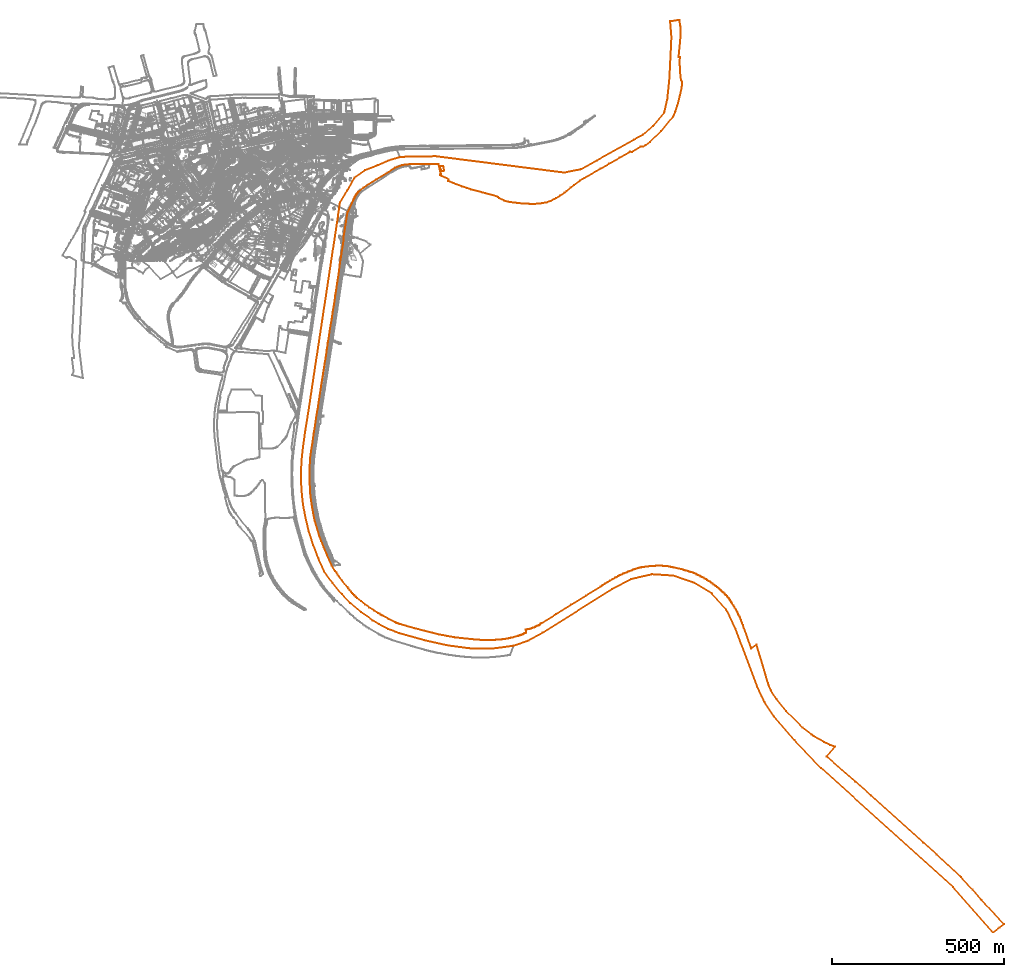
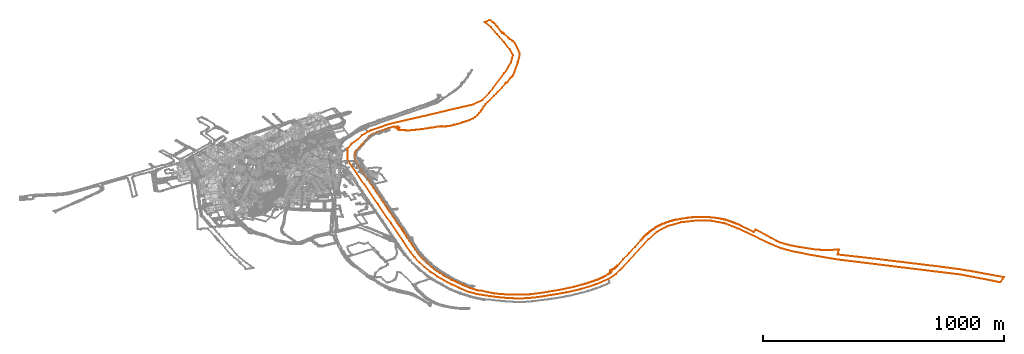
# Not in any storey, part 210 of 494: 1 proxy.
"""IFC2X3 model written with IfcOpenShell, lengths in metres."""

from ifc_helpers import new_model, entity, si_unit, frame, origin_with_axes, place, context, subcontext, project, element, save


model = new_model("IFC2X3")

# Units and contexts
model_context = context("Model", 3, precision=1e-05, world=origin_with_axes())
body_context = subcontext(model_context, "Body", "Model", "MODEL_VIEW")
ifc_project = project(units=[si_unit("AREAUNIT", "SQUARE_METRE"), si_unit("LENGTHUNIT", "METRE")], contexts=[model_context])

# Proxy
proxy_placement = place(None, frame((542.0177320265, -621.6102839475, 501.9060388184), z_axis=(0.0, 0.0, 1.0), x_axis=(1.0, 0.0, 0.0)))
element("IfcBuildingElementProxy", 1, at=proxy_placement, Name="Cadastre 115", ObjectType="NOTDEFINED", context=body_context, shape_type="GeometricCurveSet", body=[
    entity("IfcGeometricCurveSet", [entity("IfcPolyline", [entity("IfcCartesianPoint", [0.0, 0.0, 0.0]), entity("IfcCartesianPoint", [1.7000000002, 41.9029999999, 0.0426776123]), entity("IfcCartesianPoint", [6.4010000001, 83.605, 0.0697938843]), entity("IfcCartesianPoint", [12.202, 125.308, 0.0911263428]), entity("IfcCartesianPoint", [19.003, 166.7109999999, 0.0603386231]), entity("IfcCartesianPoint", [39.736, 303.4099999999, 0.0059807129]), entity("IfcCartesianPoint", [62.23, 451.719, -1.0802236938]), entity("IfcCartesianPoint", [84.7240000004, 600.0389999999, -1.1159338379]), entity("IfcCartesianPoint", [107.2150000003, 748.3470000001, -1.0468880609]), entity("IfcCartesianPoint", [113.0140000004, 790.55, -1.1881933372]), entity("IfcCartesianPoint", [134.7110000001, 826.155, -1.161278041]), entity("IfcCartesianPoint", [155.409, 863.659, -0.9169178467]), entity("IfcCartesianPoint", [186.8100000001, 884.7590000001, -0.9188815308]), entity("IfcCartesianPoint", [222.412, 898.9579999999, -1.1687156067]), entity("IfcCartesianPoint", [254.0150000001, 912.959, 0.6503832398]), entity("IfcCartesianPoint", [287.7180000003, 922.76, 1.7440050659]), entity("IfcCartesianPoint", [303.3250000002, 923.7790000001, 2.063270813]), entity("IfcCartesianPoint", [391.7410000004, 925.203, 2.1440401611]), entity("IfcCartesianPoint", [764.2220000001, 877.7069999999, -1.0670202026]), entity("IfcCartesianPoint", [813.7790000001, 887.4709999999, -0.9910232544]), entity("IfcCartesianPoint", [860.0590000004, 913.3689999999, 0.6748161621]), entity("IfcCartesianPoint", [967.5260000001, 973.5060000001, 27.7311880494]), entity("IfcCartesianPoint", [994.6440000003, 988.254, 37.480184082]), entity("IfcCartesianPoint", [1023.1500000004, 1013.648, 39.0747852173]), entity("IfcCartesianPoint", [1055.9030000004, 1052.341, 40.5297521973]), entity("IfcCartesianPoint", [1064.9140000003, 1092.6710000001, 40.5297521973]), entity("IfcCartesianPoint", [1070.929, 1152.355, 40.5297521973]), entity("IfcCartesianPoint", [1074.145, 1215.9210000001, 40.5297521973]), entity("IfcCartesianPoint", [1076.898, 1272.449, 40.5297521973]), entity("IfcCartesianPoint", [1073.0, 1317.497, 40.5297521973]), entity("IfcCartesianPoint", [1099.7940000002, 1321.79, 40.5297521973]), entity("IfcCartesianPoint", [1102.6010000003, 1301.723, 40.5297521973]), entity("IfcCartesianPoint", [1103.4240000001, 1290.551, 40.5297521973]), entity("IfcCartesianPoint", [1103.4770000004, 1280.514, 40.5297521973]), entity("IfcCartesianPoint", [1102.2930000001, 1262.0279999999, 40.5297521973]), entity("IfcCartesianPoint", [1098.5520000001, 1225.551, 40.5297521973]), entity("IfcCartesianPoint", [1097.2440000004, 1213.4139999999, 40.5297521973]), entity("IfcCartesianPoint", [1101.6160000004, 1212.946, 40.5297521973]), entity("IfcCartesianPoint", [1101.426, 1211.067, 40.5297521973]), entity("IfcCartesianPoint", [1100.4050000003, 1202.138, 40.5297521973]), entity("IfcCartesianPoint", [1101.9770000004, 1174.115, 40.5297521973]), entity("IfcCartesianPoint", [1102.9670000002, 1160.709, 40.5297521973]), entity("IfcCartesianPoint", [1104.8590000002, 1146.179, 40.5297521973]), entity("IfcCartesianPoint", [1107.0830000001, 1142.1140000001, 40.5297521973]), entity("IfcCartesianPoint", [1106.9300000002, 1126.085, 40.5297521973]), entity("IfcCartesianPoint", [1098.75, 1091.1129999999, 40.5297521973]), entity("IfcCartesianPoint", [1093.1120000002, 1070.4709999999, 40.5297521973]), entity("IfcCartesianPoint", [1087.611, 1053.0759999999, 40.5297521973]), entity("IfcCartesianPoint", [1081.9100000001, 1041.25, 40.6099217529]), entity("IfcCartesianPoint", [1046.9140000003, 998.0290000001, 37.8777592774]), entity("IfcCartesianPoint", [1013.952, 966.9480000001, 23.0549628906]), entity("IfcCartesianPoint", [1001.0490000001, 957.156, 15.1959356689]), entity("IfcCartesianPoint", [993.9810000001, 953.3230000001, 12.8877911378]), entity("IfcCartesianPoint", [987.1190000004, 953.0379999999, 12.5190143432]), entity("IfcCartesianPoint", [961.6290000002, 937.5900000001, 3.665798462]), entity("IfcCartesianPoint", [957.2340000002, 938.6810000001, 4.0288244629]), entity("IfcCartesianPoint", [954.4210000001, 937.0600000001, 3.4625143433]), entity("IfcCartesianPoint", [926.5050000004, 921.003, 1.0751563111]), entity("IfcCartesianPoint", [896.0070000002, 903.4579999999, 0.5256862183]), entity("IfcCartesianPoint", [870.9710000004, 889.0560000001, -1.0434083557]), entity("IfcCartesianPoint", [824.1980000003, 862.5249999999, -0.8967766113]), entity("IfcCartesianPoint", [810.4880000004, 854.436, -0.9945100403]), entity("IfcCartesianPoint", [793.4700000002, 841.7649999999, -1.1405064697]), entity("IfcCartesianPoint", [783.8320000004, 833.8389999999, -1.1022977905]), entity("IfcCartesianPoint", [772.5140000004, 824.301, -1.2342279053]), entity("IfcCartesianPoint", [765.8640000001, 819.112, -1.0903235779]), entity("IfcCartesianPoint", [753.5080000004, 810.9679999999, -1.0176105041]), entity("IfcCartesianPoint", [741.523, 803.5, -1.074896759]), entity("IfcCartesianPoint", [725.1920000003, 795.5049999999, -1.335704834]), entity("IfcCartesianPoint", [713.5960000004, 791.3500000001, -1.372318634]), entity("IfcCartesianPoint", [694.4680000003, 787.821, -0.7182080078]), entity("IfcCartesianPoint", [679.696, 786.7409999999, -0.4697137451]), entity("IfcCartesianPoint", [664.0280000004, 786.9480000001, -0.5030366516]), entity("IfcCartesianPoint", [644.5960000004, 787.828, -0.7203023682]), entity("IfcCartesianPoint", [623.4060000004, 789.9709999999, -1.3066104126]), entity("IfcCartesianPoint", [602.5380000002, 792.8959999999, -1.355947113]), entity("IfcCartesianPoint", [590.9960000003, 796.0989999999, -1.3330582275]), entity("IfcCartesianPoint", [575.4240000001, 803.2960000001, -1.0753761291]), entity("IfcCartesianPoint", [572.605, 805.9920000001, -1.0486753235]), entity("IfcCartesianPoint", [572.7720000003, 807.3159999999, -0.9968969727]), entity("IfcCartesianPoint", [557.0450000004, 812.294, -1.0242065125]), entity("IfcCartesianPoint", [527.3560000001, 820.0279999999, -1.1305361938]), entity("IfcCartesianPoint", [494.3810000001, 828.817, -1.1863125]), entity("IfcCartesianPoint", [468.1800000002, 837.7220000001, -1.1066472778]), entity("IfcCartesianPoint", [442.8500000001, 847.226, -1.1580195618]), entity("IfcCartesianPoint", [427.2440000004, 853.3149999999, -1.0875688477]), entity("IfcCartesianPoint", [429.4910000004, 858.176, -0.8657447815]), entity("IfcCartesianPoint", [409.1660000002, 867.754, -0.985758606]), entity("IfcCartesianPoint", [404.9010000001, 870.3159999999, -0.9955252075]), entity("IfcCartesianPoint", [404.074, 871.385, -0.9530349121]), entity("IfcCartesianPoint", [407.0240000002, 873.9509999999, -1.0865319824]), entity("IfcCartesianPoint", [403.9880000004, 883.5190000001, -0.936262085]), entity("IfcCartesianPoint", [401.6940000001, 895.2079999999, -1.1791297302]), entity("IfcCartesianPoint", [404.2280000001, 895.3259999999, -1.1788020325]), entity("IfcCartesianPoint", [406.6520000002, 885.0349999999, -0.918755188]), entity("IfcCartesianPoint", [407.9930000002, 881.54, -0.9807799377]), entity("IfcCartesianPoint", [416.6610000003, 883.575, -0.9350008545]), entity("IfcCartesianPoint", [414.29, 893.7649999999, -1.1818615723]), entity("IfcCartesianPoint", [412.5810000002, 896.014, -1.1768913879]), entity("IfcCartesianPoint", [412.4070000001, 897.3219999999, -1.1732589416]), entity("IfcCartesianPoint", [404.057, 897.1189999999, -1.1738226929]), entity("IfcCartesianPoint", [404.0690000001, 896.2849999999, -1.1761387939]), entity("IfcCartesianPoint", [401.5360000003, 896.199, -1.1763776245]), entity("IfcCartesianPoint", [399.642, 902.5589999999, 0.2813117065]), entity("IfcCartesianPoint", [373.3500000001, 902.9820000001, 0.4195534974]), entity("IfcCartesianPoint", [361.0750000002, 902.311, 0.200262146]), entity("IfcCartesianPoint", [320.3250000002, 902.71, 0.3306604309]), entity("IfcCartesianPoint", [293.2180000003, 899.5589999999, -1.1680561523]), entity("IfcCartesianPoint", [273.9180000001, 891.8559999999, -1.1357965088]), entity("IfcCartesianPoint", [218.4140000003, 857.6540000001, -0.8713044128]), entity("IfcCartesianPoint", [181.412, 834.355, -1.0902175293]), entity("IfcCartesianPoint", [168.0090000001, 822.352, -1.1854189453]), entity("IfcCartesianPoint", [166.4360000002, 820.537, -1.148776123]), entity("IfcCartesianPoint", [164.9080000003, 818.6839999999, -1.0687328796]), entity("IfcCartesianPoint", [163.4280000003, 816.7930000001, -1.0072961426]), entity("IfcCartesianPoint", [161.9940000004, 814.8659999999, -1.0223649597]), entity("IfcCartesianPoint", [160.6100000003, 812.9029999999, -1.0272359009]), entity("IfcCartesianPoint", [159.1740000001, 810.75, -1.0165260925]), entity("IfcCartesianPoint", [157.7960000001, 808.5600000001, -0.9889538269]), entity("IfcCartesianPoint", [156.4780000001, 806.3319999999, -1.0375517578]), entity("IfcCartesianPoint", [155.2210000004, 804.071, -1.0735549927]), entity("IfcCartesianPoint", [154.0250000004, 801.7760000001, -1.1110096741]), entity("IfcCartesianPoint", [152.8910000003, 799.449, -1.2036887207]), entity("IfcCartesianPoint", [151.821, 797.0929999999, -1.3226821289]), entity("IfcCartesianPoint", [137.9820000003, 767.885, 2.3113259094]), entity("IfcCartesianPoint", [135.2990000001, 762.5109999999, 2.2620417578]), entity("IfcCartesianPoint", [123.801, 690.423, 0.5425215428]), entity("IfcCartesianPoint", [124.4980000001, 684.551, 0.7243541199]), entity("IfcCartesianPoint", [119.2950000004, 652.9909999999, 0.1488033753]), entity("IfcCartesianPoint", [116.054, 631.5800000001, 0.1639845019]), entity("IfcCartesianPoint", [112.8530000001, 609.909, -0.5517054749]), entity("IfcCartesianPoint", [109.273, 582.077, -1.0554445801]), entity("IfcCartesianPoint", [105.8520000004, 561.4750000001, -1.1082409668]), entity("IfcCartesianPoint", [102.8320000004, 540.8740000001, -1.0558017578]), entity("IfcCartesianPoint", [99.6910000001, 520.0829999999, -1.1056615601]), entity("IfcCartesianPoint", [95.5900000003, 492.311, -1.1555075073]), entity("IfcCartesianPoint", [92.3100000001, 472.02, -1.1044381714]), entity("IfcCartesianPoint", [89.2890000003, 451.308, -1.1264724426]), entity("IfcCartesianPoint", [84.3690000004, 423.8459999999, -1.1125753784]), entity("IfcCartesianPoint", [81.378, 402.9550000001, -1.0842247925]), entity("IfcCartesianPoint", [77.9580000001, 382.4939999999, -1.0687600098]), entity("IfcCartesianPoint", [75.057, 361.622, -1.0425980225]), entity("IfcCartesianPoint", [71.8170000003, 340.4709999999, -1.0613349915]), entity("IfcCartesianPoint", [64.4250000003, 295.318, -1.1045910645]), entity("IfcCartesianPoint", [59.9750000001, 266.8859999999, -0.0401028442]), entity("IfcCartesianPoint", [56.912, 247.2560000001, 0.4312880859]), entity("IfcCartesianPoint", [55.054, 235.344, 0.3271748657]), entity("IfcCartesianPoint", [52.7640000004, 219.5330000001, 0.2402608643]), entity("IfcCartesianPoint", [49.003, 195.192, 0.2519875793]), entity("IfcCartesianPoint", [45.452, 174.72, 0.2037938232]), entity("IfcCartesianPoint", [42.3620000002, 154.0589999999, 0.1048466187]), entity("IfcCartesianPoint", [39.3110000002, 133.227, 0.004605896]), entity("IfcCartesianPoint", [37.111, 119.477, 0.0074746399]), entity("IfcCartesianPoint", [33.0600000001, 91.855, 0.1121435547]), entity("IfcCartesianPoint", [27.5790000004, 57.2830000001, 0.0631157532]), entity("IfcCartesianPoint", [26.2990000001, 40.7009999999, 0.0730621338]), entity("IfcCartesianPoint", [25.1980000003, 23.6499999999, 0.0640465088]), entity("IfcCartesianPoint", [25.0680000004, 7.2889999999, 0.063135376]), entity("IfcCartesianPoint", [25.1270000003, -20.023, 0.06345047]), entity("IfcCartesianPoint", [26.2370000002, -42.1229999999, 0.0737811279]), entity("IfcCartesianPoint", [27.128, -55.2320000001, 0.0634484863]), entity("IfcCartesianPoint", [29.52, -76.0209999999, 0.0621362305]), entity("IfcCartesianPoint", [31.8020000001, -90.8300000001, 0.0908261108]), entity("IfcCartesianPoint", [35.2540000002, -110.899, 0.0289588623]), entity("IfcCartesianPoint", [39.9760000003, -133.6769999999, 0.0067570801]), entity("IfcCartesianPoint", [53.1710000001, -176.916, 0.2370680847]), entity("IfcCartesianPoint", [59.0420000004, -192.6359999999, 0.3572734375]), entity("IfcCartesianPoint", [66.2540000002, -210.325, -1.1103059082]), entity("IfcCartesianPoint", [75.2770000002, -232.4650000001, -1.0429473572]), entity("IfcCartesianPoint", [89.54, -264.321, -1.1246417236]), entity("IfcCartesianPoint", [99.1670000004, -279.6969999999, -1.1328786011]), entity("IfcCartesianPoint", [103.0280000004, -285.2280000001, -1.0622677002]), entity("IfcCartesianPoint", [106.9420000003, -290.7209999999, -1.1197266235]), entity("IfcCartesianPoint", [110.909, -296.176, -0.9881795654]), entity("IfcCartesianPoint", [119.7410000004, -307.6510000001, 0.8797353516]), entity("IfcCartesianPoint", [134.9640000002, -327.382, 1.0506490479]), entity("IfcCartesianPoint", [138.4310000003, -331.7409999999, 1.7574806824]), entity("IfcCartesianPoint", [141.9570000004, -336.054, 1.901065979]), entity("IfcCartesianPoint", [145.2770000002, -340.007, 1.9617590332]), entity("IfcCartesianPoint", [148.6320000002, -343.932, 1.9617590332]), entity("IfcCartesianPoint", [152.02, -347.827, 1.9617590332]), entity("IfcCartesianPoint", [154.0150000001, -350.101, 1.9617590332]), entity("IfcCartesianPoint", [156.0670000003, -352.324, 1.9617590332]), entity("IfcCartesianPoint", [158.1740000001, -354.4939999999, 1.9617590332]), entity("IfcCartesianPoint", [160.3350000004, -356.6100000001, 1.9617590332]), entity("IfcCartesianPoint", [162.5490000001, -358.6710000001, 1.9617590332]), entity("IfcCartesianPoint", [174.4020000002, -367.949, 1.9617590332]), entity("IfcCartesianPoint", [186.3230000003, -377.1529999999, 1.9617590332]), entity("IfcCartesianPoint", [198.5860000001, -385.9909999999, 1.9617590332]), entity("IfcCartesianPoint", [211.8140000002, -394.6059999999, 1.9617590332]), entity("IfcCartesianPoint", [224.537, -402.6070000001, 1.9617590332]), entity("IfcCartesianPoint", [227.7660000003, -404.5160000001, 1.9617590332]), entity("IfcCartesianPoint", [231.0190000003, -406.3829999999, 1.9617590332]), entity("IfcCartesianPoint", [234.2960000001, -408.21, 1.9617590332]), entity("IfcCartesianPoint", [237.5950000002, -409.9950000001, 1.9617590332]), entity("IfcCartesianPoint", [255.23, -419.4369999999, 1.9617590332]), entity("IfcCartesianPoint", [272.963, -428.703, 1.9617590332]), entity("IfcCartesianPoint", [275.7050000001, -429.946, 1.9617590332]), entity("IfcCartesianPoint", [278.4780000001, -431.1189999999, 1.9617590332]), entity("IfcCartesianPoint", [281.2790000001, -432.2220000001, 1.9617590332]), entity("IfcCartesianPoint", [284.1070000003, -433.254, 1.9617590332]), entity("IfcCartesianPoint", [286.9600000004, -434.2150000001, 1.9617590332]), entity("IfcCartesianPoint", [289.8360000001, -435.1040000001, 1.9617590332]), entity("IfcCartesianPoint", [304.571, -439.4010000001, 1.9617590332]), entity("IfcCartesianPoint", [332.9720000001, -447.452, 1.9617590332]), entity("IfcCartesianPoint", [357.7310000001, -454.02, 1.9617590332]), entity("IfcCartesianPoint", [381.5870000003, -459.8670000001, 1.9617590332]), entity("IfcCartesianPoint", [401.2070000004, -464.5970000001, 1.9617590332]), entity("IfcCartesianPoint", [420.8260000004, -468.5060000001, 1.9617590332]), entity("IfcCartesianPoint", [447.8340000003, -473.0860000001, 1.9617590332]), entity("IfcCartesianPoint", [467.6890000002, -475.4950000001, 1.9617590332]), entity("IfcCartesianPoint", [502.5050000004, -479.0150000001, 1.9617590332]), entity("IfcCartesianPoint", [507.3450000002, -479.4680000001, 1.9617590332]), entity("IfcCartesianPoint", [512.1920000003, -479.845, 1.9617590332]), entity("IfcCartesianPoint", [517.0450000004, -480.1459999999, 1.9617590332]), entity("IfcCartesianPoint", [521.9010000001, -480.371, 1.9617590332]), entity("IfcCartesianPoint", [526.7600000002, -480.52, 1.9617590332]), entity("IfcCartesianPoint", [531.6210000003, -480.5919999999, 1.9617590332]), entity("IfcCartesianPoint", [536.483, -480.588, 1.9617590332]), entity("IfcCartesianPoint", [541.6570000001, -480.6680000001, 1.9617590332]), entity("IfcCartesianPoint", [546.8310000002, -480.6880000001, 1.9617590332]), entity("IfcCartesianPoint", [552.0050000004, -480.648, 1.9617590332]), entity("IfcCartesianPoint", [557.1780000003, -480.5490000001, 1.9617590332]), entity("IfcCartesianPoint", [562.3500000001, -480.3900000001, 1.9617590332]), entity("IfcCartesianPoint", [567.52, -480.172, 1.9617590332]), entity("IfcCartesianPoint", [571.2120000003, -480.023, 1.9617590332]), entity("IfcCartesianPoint", [574.9010000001, -479.8049999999, 1.9617590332]), entity("IfcCartesianPoint", [578.5860000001, -479.5190000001, 1.9617590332]), entity("IfcCartesianPoint", [582.2640000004, -479.166, 1.9617590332]), entity("IfcCartesianPoint", [585.9350000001, -478.7439999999, 1.9617590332]), entity("IfcCartesianPoint", [589.5980000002, -478.2550000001, 1.9617590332]), entity("IfcCartesianPoint", [593.2510000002, -477.6980000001, 1.9617590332]), entity("IfcCartesianPoint", [596.8930000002, -477.074, 1.9617590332]), entity("IfcCartesianPoint", [600.5240000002, -476.3829999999, 1.9617590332]), entity("IfcCartesianPoint", [604.1400000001, -475.625, 1.9617590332]), entity("IfcCartesianPoint", [607.7420000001, -474.8, 1.9617590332]), entity("IfcCartesianPoint", [611.3290000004, -473.909, 1.9617590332]), entity("IfcCartesianPoint", [614.898, -472.952, 1.9617590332]), entity("IfcCartesianPoint", [630.3800000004, -468.8630000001, 1.9617590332]), entity("IfcCartesianPoint", [632.6700000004, -468.2509999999, 1.9617590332]), entity("IfcCartesianPoint", [634.9420000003, -467.575, 1.9617590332]), entity("IfcCartesianPoint", [637.1950000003, -466.8370000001, 1.9617590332]), entity("IfcCartesianPoint", [639.426, -466.0349999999, 1.9617590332]), entity("IfcCartesianPoint", [641.6340000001, -465.172, 1.9617590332]), entity("IfcCartesianPoint", [643.8170000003, -464.2479999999, 1.9617590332]), entity("IfcCartesianPoint", [645.9730000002, -463.263, 1.9617590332]), entity("IfcCartesianPoint", [648.1010000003, -462.2180000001, 1.9617590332]), entity("IfcCartesianPoint", [650.199, -461.1140000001, 1.9617590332]), entity("IfcCartesianPoint", [652.2650000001, -459.952, 1.9617590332]), entity("IfcCartesianPoint", [653.8000000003, -459.0050000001, 1.9617590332]), entity("IfcCartesianPoint", [653.9850000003, -458.791, 1.9617590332]), entity("IfcCartesianPoint", [654.128, -458.547, 1.9617590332]), entity("IfcCartesianPoint", [654.2220000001, -458.28, 1.9617590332]), entity("IfcCartesianPoint", [654.2640000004, -458.0, 1.9617590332]), entity("IfcCartesianPoint", [654.253, -457.7169999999, 1.9617590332]), entity("IfcCartesianPoint", [653.1300000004, -450.4839999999, 1.9617590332]), entity("IfcCartesianPoint", [655.8890000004, -450.0870000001, 1.9617590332]), entity("IfcCartesianPoint", [658.6360000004, -449.6140000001, 1.9617590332]), entity("IfcCartesianPoint", [661.3690000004, -449.0649999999, 1.9617590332]), entity("IfcCartesianPoint", [664.0850000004, -448.439, 1.9617590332]), entity("IfcCartesianPoint", [666.7830000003, -447.7390000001, 1.9617590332]), entity("IfcCartesianPoint", [669.4610000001, -446.963, 1.9617590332]), entity("IfcCartesianPoint", [672.1150000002, -446.1130000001, 1.9617590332]), entity("IfcCartesianPoint", [674.7450000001, -445.1899999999, 1.9617590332]), entity("IfcCartesianPoint", [677.3490000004, -444.193, 1.9617590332]), entity("IfcCartesianPoint", [679.9230000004, -443.125, 1.9617590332]), entity("IfcCartesianPoint", [682.4670000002, -441.9850000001, 1.9617590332]), entity("IfcCartesianPoint", [684.9780000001, -440.7749999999, 1.9617590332]), entity("IfcCartesianPoint", [687.4540000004, -439.4950000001, 1.9617590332]), entity("IfcCartesianPoint", [689.8940000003, -438.1470000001, 1.9617590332]), entity("IfcCartesianPoint", [692.2950000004, -436.7320000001, 1.9617590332]), entity("IfcCartesianPoint", [694.6560000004, -435.25, 1.9617590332]), entity("IfcCartesianPoint", [696.9750000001, -433.703, 1.9617590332]), entity("IfcCartesianPoint", [699.25, -432.0919999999, 1.9617590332]), entity("IfcCartesianPoint", [742.0430000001, -405.45, 1.9617590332]), entity("IfcCartesianPoint", [785.5470000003, -378.378, 1.9617590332]), entity("IfcCartesianPoint", [828.0120000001, -351.9099999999, 1.9617590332]), entity("IfcCartesianPoint", [870.3230000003, -325.594, 1.9617590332]), entity("IfcCartesianPoint", [877.327, -321.155, 1.9617590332]), entity("IfcCartesianPoint", [884.3670000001, -316.773, 1.9617590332]), entity("IfcCartesianPoint", [891.4430000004, -312.4510000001, 1.9617590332]), entity("IfcCartesianPoint", [898.5550000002, -308.1869999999, 1.9617590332]), entity("IfcCartesianPoint", [905.702, -303.9820000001, 1.9617590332]), entity("IfcCartesianPoint", [912.8840000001, -299.8370000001, 1.9617590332]), entity("IfcCartesianPoint", [917.466, -297.378, 1.9617590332]), entity("IfcCartesianPoint", [922.0830000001, -294.987, 1.9617590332]), entity("IfcCartesianPoint", [926.736, -292.665, 1.9617590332]), entity("IfcCartesianPoint", [931.4230000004, -290.4129999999, 1.9617590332]), entity("IfcCartesianPoint", [936.1430000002, -288.23, 1.9617590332]), entity("IfcCartesianPoint", [940.895, -286.118, 1.9617590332]), entity("IfcCartesianPoint", [945.6770000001, -284.077, 1.9617590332]), entity("IfcCartesianPoint", [950.4890000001, -282.1070000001, 1.9617590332]), entity("IfcCartesianPoint", [955.3310000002, -280.209, 1.9617590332]), entity("IfcCartesianPoint", [960.199, -278.3829999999, 1.9617590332]), entity("IfcCartesianPoint", [965.0950000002, -276.6300000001, 1.9617590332]), entity("IfcCartesianPoint", [970.0160000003, -274.949, 1.9617590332]), entity("IfcCartesianPoint", [974.9610000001, -273.3419999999, 1.9617590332]), entity("IfcCartesianPoint", [979.9300000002, -271.8090000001, 1.9617590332]), entity("IfcCartesianPoint", [983.48, -270.946, 1.9617590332]), entity("IfcCartesianPoint", [987.0460000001, -270.148, 1.9617590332]), entity("IfcCartesianPoint", [990.6260000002, -269.416, 1.9617590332]), entity("IfcCartesianPoint", [994.2180000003, -268.7490000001, 1.9617590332]), entity("IfcCartesianPoint", [997.8220000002, -268.148, 1.9617590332]), entity("IfcCartesianPoint", [1001.4370000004, -267.6130000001, 1.9617590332]), entity("IfcCartesianPoint", [1005.0600000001, -267.1440000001, 1.9617590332]), entity("IfcCartesianPoint", [1008.6920000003, -266.7409999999, 1.9617590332]), entity("IfcCartesianPoint", [1013.4010000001, -266.2650000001, 1.9617590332]), entity("IfcCartesianPoint", [1018.1170000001, -265.861, 1.9617590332]), entity("IfcCartesianPoint", [1022.838, -265.5290000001, 1.9617590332]), entity("IfcCartesianPoint", [1027.5640000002, -265.2690000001, 1.9617590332]), entity("IfcCartesianPoint", [1032.2940000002, -265.081, 1.9617590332]), entity("IfcCartesianPoint", [1037.0250000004, -264.966, 1.9617590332]), entity("IfcCartesianPoint", [1041.7580000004, -264.923, 1.9617590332]), entity("IfcCartesianPoint", [1046.4910000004, -264.952, 1.9617590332]), entity("IfcCartesianPoint", [1049.7770000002, -265.057, 1.9617590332]), entity("IfcCartesianPoint", [1053.0590000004, -265.2250000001, 1.9617590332]), entity("IfcCartesianPoint", [1056.338, -265.4569999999, 1.9617590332]), entity("IfcCartesianPoint", [1059.6120000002, -265.7520000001, 1.9617590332]), entity("IfcCartesianPoint", [1062.8800000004, -266.1100000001, 1.9617590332]), entity("IfcCartesianPoint", [1066.1400000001, -266.531, 1.9617590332]), entity("IfcCartesianPoint", [1069.3910000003, -267.0150000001, 1.9617590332]), entity("IfcCartesianPoint", [1072.6330000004, -267.5619999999, 1.9617590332]), entity("IfcCartesianPoint", [1075.8630000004, -268.1710000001, 1.9617590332]), entity("IfcCartesianPoint", [1083.5240000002, -269.8500000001, 1.9617590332]), entity("IfcCartesianPoint", [1091.1690000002, -271.598, 1.9617590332]), entity("IfcCartesianPoint", [1098.7970000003, -273.4170000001, 1.9617590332]), entity("IfcCartesianPoint", [1106.409, -275.3060000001, 1.9617590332]), entity("IfcCartesianPoint", [1114.003, -277.2650000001, 1.9617590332]), entity("IfcCartesianPoint", [1117.6300000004, -278.219, 1.9617590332]), entity("IfcCartesianPoint", [1121.2390000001, -279.2350000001, 1.9617590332]), entity("IfcCartesianPoint", [1124.8310000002, -280.3130000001, 1.9617590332]), entity("IfcCartesianPoint", [1128.4040000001, -281.452, 1.9617590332]), entity("IfcCartesianPoint", [1132.0600000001, -282.6869999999, 1.9617590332]), entity("IfcCartesianPoint", [1135.6950000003, -283.987, 1.9617590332]), entity("IfcCartesianPoint", [1139.3050000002, -285.3489999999, 1.9617590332]), entity("IfcCartesianPoint", [1142.892, -286.7749999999, 1.9617590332]), entity("IfcCartesianPoint", [1146.4530000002, -288.263, 1.9617590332]), entity("IfcCartesianPoint", [1150.4070000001, -290.0420000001, 1.9617590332]), entity("IfcCartesianPoint", [1154.3320000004, -291.882, 1.9617590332]), entity("IfcCartesianPoint", [1158.2290000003, -293.7820000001, 1.9617590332]), entity("IfcCartesianPoint", [1162.0950000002, -295.743, 1.9617590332]), entity("IfcCartesianPoint", [1165.9310000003, -297.763, 1.9617590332]), entity("IfcCartesianPoint", [1169.7350000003, -299.8430000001, 1.9617590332]), entity("IfcCartesianPoint", [1173.5070000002, -301.9809999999, 1.9617590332]), entity("IfcCartesianPoint", [1177.2450000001, -304.1769999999, 1.9617590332]), entity("IfcCartesianPoint", [1180.9480000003, -306.4310000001, 1.9617590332]), entity("IfcCartesianPoint", [1184.6160000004, -308.7420000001, 1.9617590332]), entity("IfcCartesianPoint", [1188.4430000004, -311.3360000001, 1.9617590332]), entity("IfcCartesianPoint", [1192.2380000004, -313.977, 1.9617590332]), entity("IfcCartesianPoint", [1195.9990000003, -316.665, 1.9617590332]), entity("IfcCartesianPoint", [1199.7270000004, -319.3999999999, 1.9617590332]), entity("IfcCartesianPoint", [1203.1720000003, -321.963, 1.9617590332]), entity("IfcCartesianPoint", [1206.5790000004, -324.574, 1.9617590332]), entity("IfcCartesianPoint", [1209.9500000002, -327.2339999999, 1.9617590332]), entity("IfcCartesianPoint", [1213.2810000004, -329.942, 1.9617590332]), entity("IfcCartesianPoint", [1216.574, -332.6969999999, 1.9617590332]), entity("IfcCartesianPoint", [1219.827, -335.5, 1.9617590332]), entity("IfcCartesianPoint", [1223.0390000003, -338.348, 1.9617590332]), entity("IfcCartesianPoint", [1225.6610000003, -340.7490000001, 1.9617590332]), entity("IfcCartesianPoint", [1228.2350000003, -343.2010000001, 1.9617590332]), entity("IfcCartesianPoint", [1230.7610000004, -345.7039999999, 1.9617590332]), entity("IfcCartesianPoint", [1233.236, -348.2560000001, 1.9617590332]), entity("IfcCartesianPoint", [1235.6610000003, -350.8559999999, 1.9617590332]), entity("IfcCartesianPoint", [1238.0330000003, -353.504, 1.9617590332]), entity("IfcCartesianPoint", [1240.3530000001, -356.1980000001, 1.9617590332]), entity("IfcCartesianPoint", [1242.6200000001, -358.9369999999, 1.9617590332]), entity("IfcCartesianPoint", [1244.358, -361.0279999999, 1.9617590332]), entity("IfcCartesianPoint", [1246.0430000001, -363.1610000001, 1.9617590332]), entity("IfcCartesianPoint", [1247.6750000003, -365.335, 1.9617590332]), entity("IfcCartesianPoint", [1249.253, -367.5490000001, 1.9617590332]), entity("IfcCartesianPoint", [1250.7750000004, -369.8019999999, 1.9617590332]), entity("IfcCartesianPoint", [1252.2420000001, -372.091, 1.9617590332]), entity("IfcCartesianPoint", [1253.6510000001, -374.416, 1.9617590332]), entity("IfcCartesianPoint", [1257.122, -380.2120000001, 1.9617590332]), entity("IfcCartesianPoint", [1260.54, -386.0390000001, 1.9617590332]), entity("IfcCartesianPoint", [1263.9060000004, -391.8970000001, 1.9617590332]), entity("IfcCartesianPoint", [1267.219, -397.784, 1.9617590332]), entity("IfcCartesianPoint", [1269.077, -401.277, 1.9617590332]), entity("IfcCartesianPoint", [1270.8690000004, -404.8049999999, 1.9617590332]), entity("IfcCartesianPoint", [1272.594, -408.365, 1.9617590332]), entity("IfcCartesianPoint", [1274.2520000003, -411.9580000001, 1.9617590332]), entity("IfcCartesianPoint", [1275.8420000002, -415.581, 1.9617590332]), entity("IfcCartesianPoint", [1278.7200000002, -422.622, 1.9617590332]), entity("IfcCartesianPoint", [1281.5270000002, -429.692, 1.9617590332]), entity("IfcCartesianPoint", [1284.2620000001, -436.79, 1.9617590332]), entity("IfcCartesianPoint", [1286.9250000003, -443.915, 1.9617590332]), entity("IfcCartesianPoint", [1308.7750000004, -505.148, 1.9617590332]), entity("IfcCartesianPoint", [1311.6360000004, -503.0490000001, 1.9617590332]), entity("IfcCartesianPoint", [1323.8850000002, -494.0590000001, 1.9617590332]), entity("IfcCartesianPoint", [1341.9450000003, -553.632, 1.9617590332]), entity("IfcCartesianPoint", [1349.2420000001, -578.2949999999, 1.9617590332]), entity("IfcCartesianPoint", [1357.3300000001, -606.469, 1.9617590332]), entity("IfcCartesianPoint", [1359.3000000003, -612.0689999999, 1.9617590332]), entity("IfcCartesianPoint", [1366.0500000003, -627.1699999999, 1.9617590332]), entity("IfcCartesianPoint", [1382.142, -653.0490000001, 1.9617590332]), entity("IfcCartesianPoint", [1410.6490000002, -686.693, 1.9617590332]), entity("IfcCartesianPoint", [1458.3710000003, -735.551, 1.9617590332]), entity("IfcCartesianPoint", [1484.2590000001, -755.753, 1.9617590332]), entity("IfcCartesianPoint", [1490.321, -760.341, 1.9617590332]), entity("IfcCartesianPoint", [1519.719, -776.936, 1.9617590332]), entity("IfcCartesianPoint", [1537.5290000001, -785.5860000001, 1.9617590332]), entity("IfcCartesianPoint", [1552.1500000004, -791.0349999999, 1.9617590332]), entity("IfcCartesianPoint", [1527.2620000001, -819.334, 1.9617590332]), entity("IfcCartesianPoint", [1610.1120000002, -891.7949999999, 1.9617590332]), entity("IfcCartesianPoint", [1657.5610000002, -933.2949999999, 1.9617590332]), entity("IfcCartesianPoint", [1808.1750000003, -1068.9680000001, 1.9617590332]), entity("IfcCartesianPoint", [1846.6610000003, -1103.6510000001, 1.9617590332]), entity("IfcCartesianPoint", [1918.2460000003, -1170.1799999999, 1.9617590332]), entity("IfcCartesianPoint", [1952.6370000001, -1206.6950000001, 1.9617590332]), entity("IfcCartesianPoint", [1978.4250000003, -1236.209, 1.9617590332]), entity("IfcCartesianPoint", [2042.8230000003, -1306.311, 1.9617590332]), entity("IfcCartesianPoint", [2030.6610000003, -1315.8910000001, 1.9617590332]), entity("IfcCartesianPoint", [2011.7230000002, -1330.8100000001, 1.9617590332]), entity("IfcCartesianPoint", [1895.23, -1198.7, 1.9617590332]), entity("IfcCartesianPoint", [1511.2180000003, -852.6980000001, 1.9617590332]), entity("IfcCartesianPoint", [1434.216, -771.6939999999, 1.9617590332]), entity("IfcCartesianPoint", [1375.2150000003, -703.6869999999, 1.9617590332]), entity("IfcCartesianPoint", [1347.2150000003, -661.683, 1.9617590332]), entity("IfcCartesianPoint", [1326.2140000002, -615.682, 1.9617590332]), entity("IfcCartesianPoint", [1263.2080000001, -448.683, 1.9617590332]), entity("IfcCartesianPoint", [1236.2390000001, -391.6780000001, 1.9617590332]), entity("IfcCartesianPoint", [1194.236, -345.6810000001, 1.9617590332]), entity("IfcCartesianPoint", [1141.2310000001, -313.686, 1.9617590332]), entity("IfcCartesianPoint", [1082.202, -293.676, 1.9617590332]), entity("IfcCartesianPoint", [1020.2290000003, -289.6969999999, 1.9617590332]), entity("IfcCartesianPoint", [959.236, -303.706, 1.9617590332]), entity("IfcCartesianPoint", [904.247, -332.716, 1.9617590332]), entity("IfcCartesianPoint", [702.2060000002, -459.683, 1.9617590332]), entity("IfcCartesianPoint", [662.196, -481.676, 1.9617590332]), entity("IfcCartesianPoint", [618.196, -497.5760000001, 1.9617590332]), entity("IfcCartesianPoint", [553.7320000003, -505.9939999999, 1.9617590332]), entity("IfcCartesianPoint", [488.1340000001, -504.9010000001, 1.9617590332]), entity("IfcCartesianPoint", [421.142, -495.7150000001, 1.9617590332]), entity("IfcCartesianPoint", [362.0520000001, -482.3319999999, 1.9617590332]), entity("IfcCartesianPoint", [285.2450000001, -460.9369999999, 1.9617590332]), entity("IfcCartesianPoint", [253.2420000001, -448.7309999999, 1.9617590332]), entity("IfcCartesianPoint", [226.3390000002, -435.027, 1.9617590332]), entity("IfcCartesianPoint", [208.5360000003, -423.7239999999, 1.9617590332]), entity("IfcCartesianPoint", [174.8310000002, -399.9180000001, 1.9617590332]), entity("IfcCartesianPoint", [143.2280000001, -373.111, 1.9196070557]), entity("IfcCartesianPoint", [119.3280000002, -347.7050000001, 0.8720722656]), entity("IfcCartesianPoint", [92.5250000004, -315.6950000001, -1.1028700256]), entity("IfcCartesianPoint", [67.7210000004, -281.889, -1.095138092]), entity("IfcCartesianPoint", [50.7170000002, -243.689, 0.2567996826]), entity("IfcCartesianPoint", [35.713, -204.189, 0.0186773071]), entity("IfcCartesianPoint", [22.7080000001, -164.1910000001, 0.0830588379]), entity("IfcCartesianPoint", [13.2040000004, -125.192, 0.0775157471]), entity("IfcCartesianPoint", [5.7000000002, -83.895, 0.0774572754]), entity("IfcCartesianPoint", [1.4010000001, -42.0009999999, 0.0422122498]), entity("IfcCartesianPoint", [0.0, 0.0, 0.0])])]),
])

save(model, "model.ifc")
